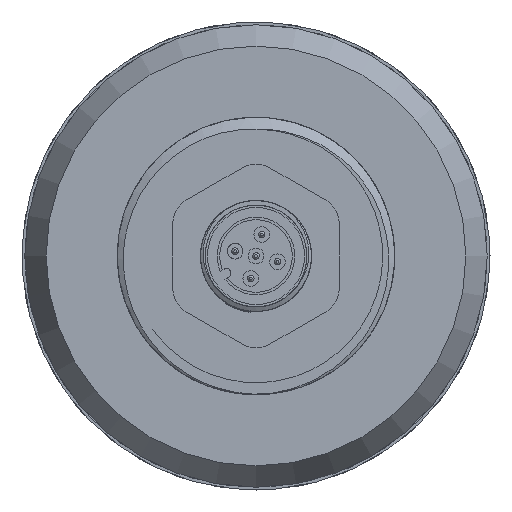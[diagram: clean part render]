
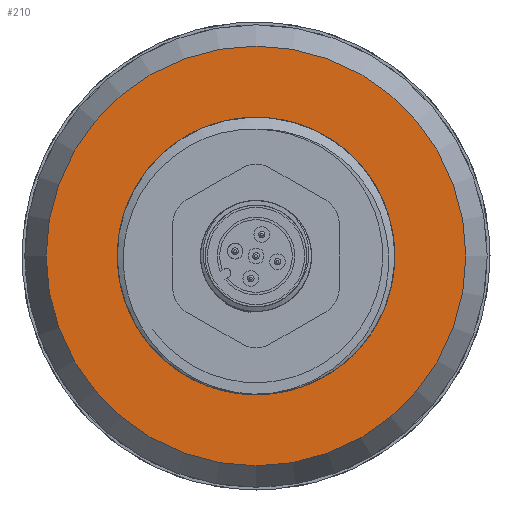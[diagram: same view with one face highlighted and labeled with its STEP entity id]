
A CAD part, front view. The second image highlights one B-rep face of the part: STEP entity #210.
In plain terms, the highlighted planar face has unit normal (0, -1, 0).
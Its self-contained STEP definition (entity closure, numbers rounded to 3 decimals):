
#210=ADVANCED_FACE('',(#609,#610),#337,.T.);
#337=PLANE('',#1739);
#486=CIRCLE('',#1735,22.691);
#488=CIRCLE('',#1738,13.);
#609=FACE_BOUND('',#807,.T.);
#610=FACE_BOUND('',#808,.T.);
#807=EDGE_LOOP('',(#1055));
#808=EDGE_LOOP('',(#1056));
#1055=ORIENTED_EDGE('',*,*,#1547,.F.);
#1056=ORIENTED_EDGE('',*,*,#1549,.F.);
#1397=VERTEX_POINT('',#2740);
#1399=VERTEX_POINT('',#2745);
#1547=EDGE_CURVE('',#1397,#1397,#486,.T.);
#1549=EDGE_CURVE('',#1399,#1399,#488,.T.);
#1735=AXIS2_PLACEMENT_3D('',#2739,#2014,#2015);
#1738=AXIS2_PLACEMENT_3D('',#2744,#2020,#2021);
#1739=AXIS2_PLACEMENT_3D('',#2746,#2022,#2023);
#2014=DIRECTION('',(0.,1.,0.));
#2015=DIRECTION('',(1.,0.,0.));
#2020=DIRECTION('',(0.,-1.,0.));
#2021=DIRECTION('',(1.,0.,0.));
#2022=DIRECTION('',(0.,-1.,0.));
#2023=DIRECTION('',(0.,0.,1.));
#2739=CARTESIAN_POINT('',(0.,-2.5,0.));
#2740=CARTESIAN_POINT('',(22.691,-2.5,0.));
#2744=CARTESIAN_POINT('',(0.,-2.5,0.));
#2745=CARTESIAN_POINT('',(13.,-2.5,0.));
#2746=CARTESIAN_POINT('',(-25.,-2.5,0.));
